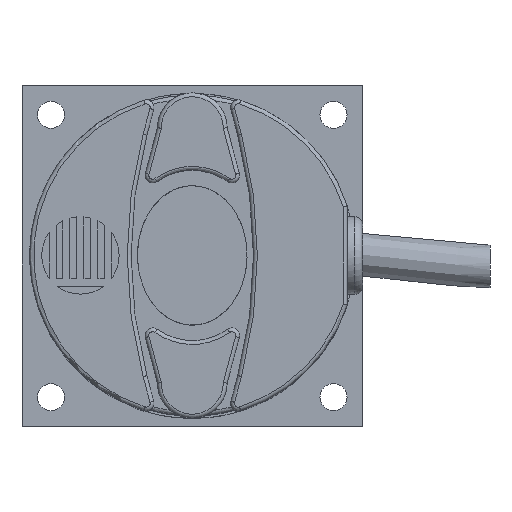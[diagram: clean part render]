
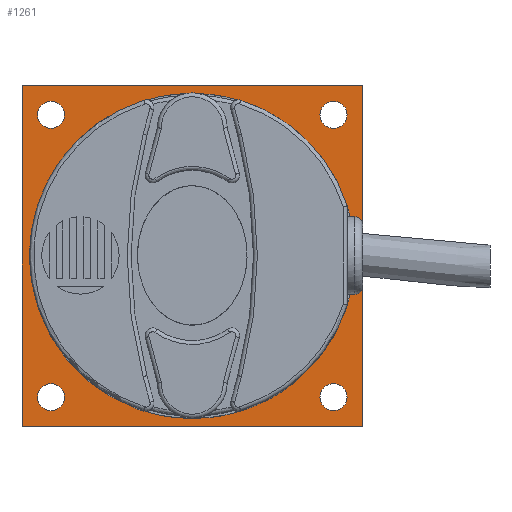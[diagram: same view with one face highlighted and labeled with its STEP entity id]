
A CAD part, top view. The second image highlights one B-rep face of the part: STEP entity #1261.
In plain terms, the highlighted planar face has unit normal (0, 0, 1).
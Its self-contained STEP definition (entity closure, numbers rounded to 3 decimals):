
#1261 = ADVANCED_FACE( '', ( #2581, #2582, #2583, #2584, #2585, #2586 ), #2587, .T. );
#2581 = FACE_OUTER_BOUND( '', #6112, .T. );
#2582 = FACE_BOUND( '', #6113, .T. );
#2583 = FACE_BOUND( '', #6114, .T. );
#2584 = FACE_BOUND( '', #6115, .T. );
#2585 = FACE_BOUND( '', #6116, .T. );
#2586 = FACE_BOUND( '', #6117, .T. );
#2587 = PLANE( '', #6118 );
#6112 = EDGE_LOOP( '', ( #9729, #9730, #9731, #9732 ) );
#6113 = EDGE_LOOP( '', ( #9733 ) );
#6114 = EDGE_LOOP( '', ( #9734 ) );
#6115 = EDGE_LOOP( '', ( #9735 ) );
#6116 = EDGE_LOOP( '', ( #9736 ) );
#6117 = EDGE_LOOP( '', ( #9737 ) );
#6118 = AXIS2_PLACEMENT_3D( '', #9738, #9739, #9740 );
#9729 = ORIENTED_EDGE( '', *, *, #11287, .T. );
#9730 = ORIENTED_EDGE( '', *, *, #11075, .T. );
#9731 = ORIENTED_EDGE( '', *, *, #10594, .T. );
#9732 = ORIENTED_EDGE( '', *, *, #11094, .T. );
#9733 = ORIENTED_EDGE( '', *, *, #10688, .T. );
#9734 = ORIENTED_EDGE( '', *, *, #11169, .T. );
#9735 = ORIENTED_EDGE( '', *, *, #10325, .T. );
#9736 = ORIENTED_EDGE( '', *, *, #10829, .T. );
#9737 = ORIENTED_EDGE( '', *, *, #11039, .T. );
#9738 = CARTESIAN_POINT( '', ( -22., 22., 2. ) );
#9739 = DIRECTION( '', ( 0., 0., 1. ) );
#9740 = DIRECTION( '', ( 1., 0., 0. ) );
#10325 = EDGE_CURVE( '', #11589, #11589, #11590, .T. );
#10594 = EDGE_CURVE( '', #12044, #12045, #12046, .T. );
#10688 = EDGE_CURVE( '', #12181, #12181, #12182, .T. );
#10829 = EDGE_CURVE( '', #12387, #12387, #12388, .T. );
#11039 = EDGE_CURVE( '', #12675, #12675, #12676, .T. );
#11075 = EDGE_CURVE( '', #12721, #12044, #12722, .T. );
#11094 = EDGE_CURVE( '', #12045, #12740, #12741, .T. );
#11169 = EDGE_CURVE( '', #12835, #12835, #12836, .T. );
#11287 = EDGE_CURVE( '', #12740, #12721, #12965, .T. );
#11589 = VERTEX_POINT( '', #13416 );
#11590 = CIRCLE( '', #13417, 1.75 );
#12044 = VERTEX_POINT( '', #14884 );
#12045 = VERTEX_POINT( '', #14885 );
#12046 = LINE( '', #14886, #14887 );
#12181 = VERTEX_POINT( '', #15198 );
#12182 = CIRCLE( '', #15199, 20.35 );
#12387 = VERTEX_POINT( '', #15535 );
#12388 = CIRCLE( '', #15536, 1.75 );
#12675 = VERTEX_POINT( '', #19104 );
#12676 = CIRCLE( '', #19105, 1.75 );
#12721 = VERTEX_POINT( '', #19170 );
#12722 = LINE( '', #19171, #19172 );
#12740 = VERTEX_POINT( '', #19236 );
#12741 = LINE( '', #19237, #19238 );
#12835 = VERTEX_POINT( '', #19885 );
#12836 = CIRCLE( '', #19886, 1.75 );
#12965 = LINE( '', #20194, #20195 );
#13416 = CARTESIAN_POINT( '', ( 20., 18.25, 2. ) );
#13417 = AXIS2_PLACEMENT_3D( '', #20607, #20608, #20609 );
#14884 = CARTESIAN_POINT( '', ( -22., -22., 2. ) );
#14885 = CARTESIAN_POINT( '', ( 22., -22., 2. ) );
#14886 = CARTESIAN_POINT( '', ( -22., -22., 2. ) );
#14887 = VECTOR( '', #20937, 1000. );
#15198 = CARTESIAN_POINT( '', ( -20.35, 0., 2. ) );
#15199 = AXIS2_PLACEMENT_3D( '', #21047, #21048, #21049 );
#15535 = CARTESIAN_POINT( '', ( -16.5, -18.25, 2. ) );
#15536 = AXIS2_PLACEMENT_3D( '', #21226, #21227, #21228 );
#19104 = CARTESIAN_POINT( '', ( -16.5, 18.25, 2. ) );
#19105 = AXIS2_PLACEMENT_3D( '', #21472, #21473, #21474 );
#19170 = CARTESIAN_POINT( '', ( -22., 22., 2. ) );
#19171 = CARTESIAN_POINT( '', ( -22., 22., 2. ) );
#19172 = VECTOR( '', #21523, 1000. );
#19236 = CARTESIAN_POINT( '', ( 22., 22., 2. ) );
#19237 = CARTESIAN_POINT( '', ( 22., -22., 2. ) );
#19238 = VECTOR( '', #21529, 1000. );
#19885 = CARTESIAN_POINT( '', ( 20., -18.25, 2. ) );
#19886 = AXIS2_PLACEMENT_3D( '', #21609, #21610, #21611 );
#20194 = CARTESIAN_POINT( '', ( 22., 22., 2. ) );
#20195 = VECTOR( '', #21701, 1000. );
#20607 = CARTESIAN_POINT( '', ( 18.25, 18.25, 2. ) );
#20608 = DIRECTION( '', ( 0., 0., -1. ) );
#20609 = DIRECTION( '', ( 1., 0., 0. ) );
#20937 = DIRECTION( '', ( 1., 0., 0. ) );
#21047 = CARTESIAN_POINT( '', ( 0., 0., 2. ) );
#21048 = DIRECTION( '', ( 0., 0., -1. ) );
#21049 = DIRECTION( '', ( -1., 0., 0. ) );
#21226 = CARTESIAN_POINT( '', ( -18.25, -18.25, 2. ) );
#21227 = DIRECTION( '', ( 0., 0., -1. ) );
#21228 = DIRECTION( '', ( 1., 0., 0. ) );
#21472 = CARTESIAN_POINT( '', ( -18.25, 18.25, 2. ) );
#21473 = DIRECTION( '', ( 0., 0., -1. ) );
#21474 = DIRECTION( '', ( 1., 0., 0. ) );
#21523 = DIRECTION( '', ( 0., -1., 0. ) );
#21529 = DIRECTION( '', ( 0., 1., 0. ) );
#21609 = CARTESIAN_POINT( '', ( 18.25, -18.25, 2. ) );
#21610 = DIRECTION( '', ( 0., 0., -1. ) );
#21611 = DIRECTION( '', ( 1., 0., 0. ) );
#21701 = DIRECTION( '', ( -1., 0., 0. ) );
